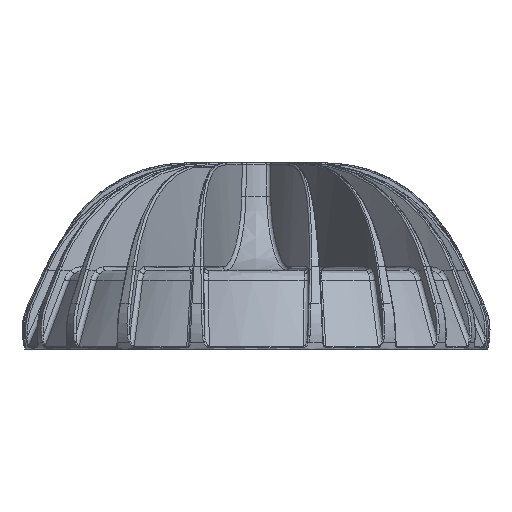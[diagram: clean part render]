
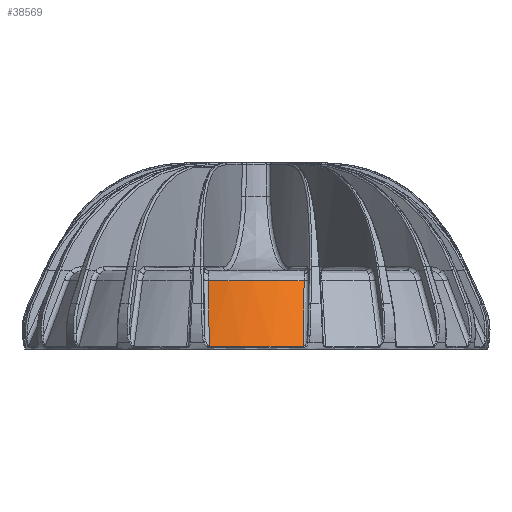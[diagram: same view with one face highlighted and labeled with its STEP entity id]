
A CAD part, left-side view. The second image highlights one B-rep face of the part: STEP entity #38569.
In plain terms, the highlighted free-form (B-spline) face has degree [3, 1] with [14, 2] control points.
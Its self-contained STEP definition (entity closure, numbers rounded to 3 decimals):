
#2191=CARTESIAN_POINT('',(-119.081,13.368,-17.887));
#2192=VERTEX_POINT('',#2191);
#2201=CARTESIAN_POINT('',(-119.081,-13.368,-17.887));
#2202=VERTEX_POINT('',#2201);
#2203=CARTESIAN_POINT('',(-119.081,-13.368,-17.887));
#2204=CARTESIAN_POINT('',(-119.124,-13.234,-17.887));
#2205=CARTESIAN_POINT('',(-119.446,-12.21,-17.887));
#2206=CARTESIAN_POINT('',(-119.835,-10.803,-17.887));
#2207=CARTESIAN_POINT('',(-120.198,-9.216,-17.887));
#2208=CARTESIAN_POINT('',(-120.444,-8.014,-17.887));
#2209=CARTESIAN_POINT('',(-120.784,-6.067,-17.887));
#2210=CARTESIAN_POINT('',(-121.057,-3.712,-17.887));
#2211=CARTESIAN_POINT('',(-121.181,-1.319,-17.887));
#2212=CARTESIAN_POINT('',(-121.195,0.363,-17.887));
#2213=CARTESIAN_POINT('',(-121.147,2.183,-17.887));
#2214=CARTESIAN_POINT('',(-120.979,4.56,-17.887));
#2215=CARTESIAN_POINT('',(-120.634,7.042,-17.887));
#2216=CARTESIAN_POINT('',(-120.205,9.214,-17.887));
#2217=CARTESIAN_POINT('',(-119.795,10.948,-17.887));
#2218=CARTESIAN_POINT('',(-119.407,12.331,-17.887));
#2219=CARTESIAN_POINT('',(-119.142,13.179,-17.887));
#2220=CARTESIAN_POINT('',(-119.081,13.368,-17.887));
#2221=B_SPLINE_CURVE_WITH_KNOTS('',3,(#2203,#2204,#2205,#2206,#2207,#2208,#2209,#2210,#2211,#2212,#2213,#2214,#2215,#2216,#2217,#2218,#2219,#2220),.UNSPECIFIED.,.F.,.U.,(4,1,1,1,1,1,1,1,1,1,1,1,1,1,1,4),(117.718,118.127,120.821,121.931,122.814,124.352,127.616,129.626,131.232,132.436,134.851,138.075,139.64,141.217,143.21,143.785),.UNSPECIFIED.);
#2222=EDGE_CURVE('',#2202,#2192,#2221,.T.);
#38490=CARTESIAN_POINT('',(-128.067,13.11,-36.25));
#38491=VERTEX_POINT('',#38490);
#38502=CARTESIAN_POINT('',(-128.067,13.11,-36.25));
#38503=CARTESIAN_POINT('',(-126.418,13.186,-32.867));
#38504=CARTESIAN_POINT('',(-123.427,13.295,-26.743));
#38505=CARTESIAN_POINT('',(-120.426,13.353,-20.624));
#38506=CARTESIAN_POINT('',(-119.081,13.368,-17.887));
#38507=B_SPLINE_CURVE_WITH_KNOTS('',3,(#38502,#38503,#38504,#38505,#38506),.UNSPECIFIED.,.F.,.U.,(4,1,4),(0.159,11.458,20.612),.UNSPECIFIED.);
#38508=EDGE_CURVE('',#38491,#2192,#38507,.T.);
#38513=CARTESIAN_POINT('',(-119.081,-13.368,-17.886));
#38514=CARTESIAN_POINT('',(-119.214,-12.951,-17.886));
#38515=CARTESIAN_POINT('',(-119.595,-11.697,-17.886));
#38516=CARTESIAN_POINT('',(-120.082,-9.802,-17.886));
#38517=CARTESIAN_POINT('',(-120.511,-7.692,-17.886));
#38518=CARTESIAN_POINT('',(-120.913,-5.137,-17.886));
#38519=CARTESIAN_POINT('',(-121.202,-1.92,-17.886));
#38520=CARTESIAN_POINT('',(-121.202,1.921,-17.886));
#38521=CARTESIAN_POINT('',(-120.913,5.137,-17.886));
#38522=CARTESIAN_POINT('',(-120.511,7.692,-17.886));
#38523=CARTESIAN_POINT('',(-120.083,9.802,-17.886));
#38524=CARTESIAN_POINT('',(-119.596,11.697,-17.886));
#38525=CARTESIAN_POINT('',(-119.214,12.951,-17.886));
#38526=CARTESIAN_POINT('',(-119.081,13.368,-17.886));
#38527=CARTESIAN_POINT('',(-127.238,-15.976,-36.251));
#38528=CARTESIAN_POINT('',(-127.396,-15.481,-36.251));
#38529=CARTESIAN_POINT('',(-127.849,-13.991,-36.251));
#38530=CARTESIAN_POINT('',(-128.429,-11.735,-36.251));
#38531=CARTESIAN_POINT('',(-128.942,-9.211,-36.251));
#38532=CARTESIAN_POINT('',(-129.423,-6.156,-36.251));
#38533=CARTESIAN_POINT('',(-129.769,-2.308,-36.251));
#38534=CARTESIAN_POINT('',(-129.769,2.308,-36.251));
#38535=CARTESIAN_POINT('',(-129.423,6.157,-36.251));
#38536=CARTESIAN_POINT('',(-128.942,9.211,-36.251));
#38537=CARTESIAN_POINT('',(-128.429,11.735,-36.251));
#38538=CARTESIAN_POINT('',(-127.849,13.991,-36.251));
#38539=CARTESIAN_POINT('',(-127.396,15.481,-36.251));
#38540=CARTESIAN_POINT('',(-127.238,15.976,-36.251));
#38541=B_SPLINE_SURFACE_WITH_KNOTS('',3,1,((#38513,#38527),(#38514,#38528),(#38515,#38529),(#38516,#38530),(#38517,#38531),(#38518,#38532),(#38519,#38533),(#38520,#38534),(#38521,#38535),(#38522,#38536),(#38523,#38537),(#38524,#38538),(#38525,#38539),(#38526,#38540)),.UNSPECIFIED.,.F.,.F.,.U.,(4,1,1,1,1,1,1,1,1,1,1,4),(2,2),(0.0,1.988,5.963,8.945,11.927,17.89,23.853,29.817,32.798,35.78,39.755,41.743),(0.0,1.0),.UNSPECIFIED.);
#38542=ORIENTED_EDGE('',*,*,#2222,.T.);
#38543=ORIENTED_EDGE('',*,*,#38508,.F.);
#38544=CARTESIAN_POINT('',(-128.067,-13.11,-36.25));
#38545=VERTEX_POINT('',#38544);
#38546=CARTESIAN_POINT('',(-128.067,-13.11,-36.25));
#38547=CARTESIAN_POINT('',(-128.461,-11.594,-36.25));
#38548=CARTESIAN_POINT('',(-129.075,-8.709,-36.249));
#38549=CARTESIAN_POINT('',(-129.547,-4.963,-36.25));
#38550=CARTESIAN_POINT('',(-129.751,-1.663,-36.25));
#38551=CARTESIAN_POINT('',(-129.767,1.275,-36.25));
#38552=CARTESIAN_POINT('',(-129.572,4.764,-36.25));
#38553=CARTESIAN_POINT('',(-129.077,8.699,-36.249));
#38554=CARTESIAN_POINT('',(-128.462,11.59,-36.25));
#38555=CARTESIAN_POINT('',(-128.067,13.11,-36.25));
#38556=B_SPLINE_CURVE_WITH_KNOTS('',3,(#38546,#38547,#38548,#38549,#38550,#38551,#38552,#38553,#38554,#38555),.UNSPECIFIED.,.F.,.U.,(4,1,1,1,1,1,1,4),(0.0,4.659,8.763,11.22,14.49,17.493,21.606,26.276),.UNSPECIFIED.);
#38557=EDGE_CURVE('',#38545,#38491,#38556,.T.);
#38558=ORIENTED_EDGE('',*,*,#38557,.F.);
#38559=CARTESIAN_POINT('',(-128.067,-13.11,-36.25));
#38560=CARTESIAN_POINT('',(-126.417,-13.186,-32.867));
#38561=CARTESIAN_POINT('',(-123.426,-13.295,-26.743));
#38562=CARTESIAN_POINT('',(-120.426,-13.353,-20.624));
#38563=CARTESIAN_POINT('',(-119.081,-13.368,-17.887));
#38564=B_SPLINE_CURVE_WITH_KNOTS('',3,(#38559,#38560,#38561,#38562,#38563),.UNSPECIFIED.,.F.,.U.,(4,1,4),(0.159,11.458,20.612),.UNSPECIFIED.);
#38565=EDGE_CURVE('',#38545,#2202,#38564,.T.);
#38566=ORIENTED_EDGE('',*,*,#38565,.T.);
#38567=EDGE_LOOP('',(#38542,#38543,#38558,#38566));
#38568=FACE_OUTER_BOUND('',#38567,.T.);
#38569=ADVANCED_FACE('',(#38568),#38541,.T.);
